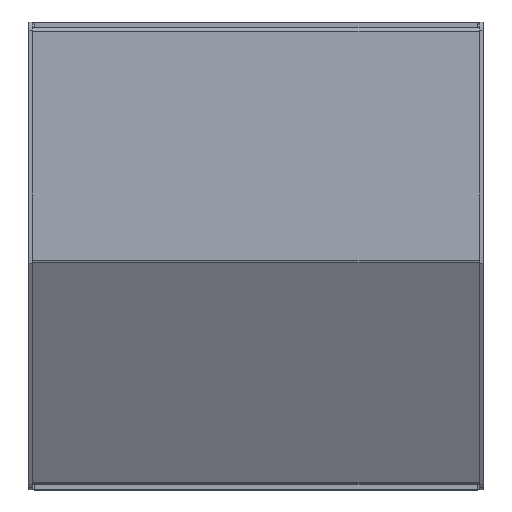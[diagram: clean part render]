
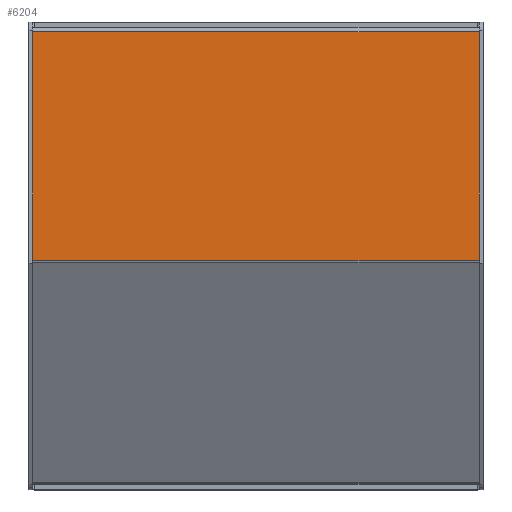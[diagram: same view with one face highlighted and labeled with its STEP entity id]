
A CAD part, top view. The second image highlights one B-rep face of the part: STEP entity #6204.
In plain terms, the highlighted planar face has unit normal (0, 0, 1).
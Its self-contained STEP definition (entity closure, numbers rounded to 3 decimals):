
#532=FACE_OUTER_BOUND('',#952,.T.);
#952=EDGE_LOOP('',(#5158,#5159,#5160,#5161));
#1442=LINE('',#9273,#2178);
#1557=LINE('',#9540,#2293);
#1676=LINE('',#9861,#2412);
#1677=LINE('',#9863,#2413);
#2178=VECTOR('',#7554,130.259);
#2293=VECTOR('',#7715,130.259);
#2412=VECTOR('',#7958,254.);
#2413=VECTOR('',#7961,254.);
#2834=VERTEX_POINT('',#9270);
#2835=VERTEX_POINT('',#9272);
#2963=VERTEX_POINT('',#9537);
#2964=VERTEX_POINT('',#9539);
#3551=EDGE_CURVE('',#2834,#2835,#1442,.T.);
#3684=EDGE_CURVE('',#2964,#2963,#1557,.T.);
#3846=EDGE_CURVE('',#2963,#2835,#1676,.T.);
#3847=EDGE_CURVE('',#2964,#2834,#1677,.T.);
#5158=ORIENTED_EDGE('',*,*,#3551,.F.);
#5159=ORIENTED_EDGE('',*,*,#3847,.F.);
#5160=ORIENTED_EDGE('',*,*,#3684,.T.);
#5161=ORIENTED_EDGE('',*,*,#3846,.T.);
#5933=PLANE('',#6692);
#6204=ADVANCED_FACE('',(#532),#5933,.T.);
#6692=AXIS2_PLACEMENT_3D('',#9862,#7959,#7960);
#7554=DIRECTION('',(0.,-1.,0.));
#7715=DIRECTION('',(0.,-1.,0.));
#7958=DIRECTION('',(1.,0.,0.));
#7959=DIRECTION('center_axis',(0.,0.,1.));
#7960=DIRECTION('ref_axis',(1.,0.,0.));
#7961=DIRECTION('',(1.,0.,0.));
#9270=CARTESIAN_POINT('',(127.,-2.438,0.));
#9272=CARTESIAN_POINT('',(127.,-132.697,0.));
#9273=CARTESIAN_POINT('',(127.,-2.438,0.));
#9537=CARTESIAN_POINT('',(-127.,-132.697,0.));
#9539=CARTESIAN_POINT('',(-127.,-2.438,0.));
#9540=CARTESIAN_POINT('',(-127.,-2.438,0.));
#9861=CARTESIAN_POINT('',(-127.,-132.697,0.));
#9862=CARTESIAN_POINT('Origin',(-127.,0.,0.));
#9863=CARTESIAN_POINT('',(-127.,-2.438,0.));
